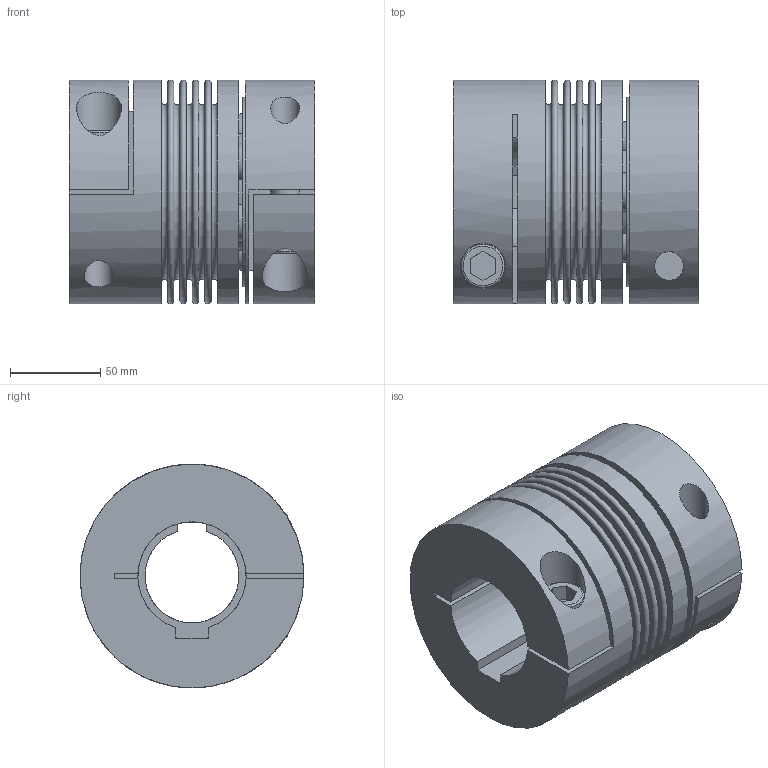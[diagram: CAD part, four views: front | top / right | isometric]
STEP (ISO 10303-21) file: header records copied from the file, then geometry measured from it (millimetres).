
FILE_DESCRIPTION(/* description */ ('STEP AP214'),/* implementation_level */ '2;1');
FILE_NAME(/* name */ 'C:\Diequa Files\DieQua Coupling\BCB\STP\BCB.500.136.#.#.stp',/* time_stamp */ '2018-11-27T09:04:13-06:00',/* author */ ('DiequaCAD'),/* organization */ (''),/* preprocessor_version */ 'ST-DEVELOPER v17.2',/* originating_system */ 'Autodesk Inventor 2019',/* authorisation */ ' ');
FILE_SCHEMA (('AUTOMOTIVE_DESIGN { 1 0 10303 214 3 1 1 }'));
Length unit declared in the file: millimetre
Products named in the file (3): BK5_500_136_60_PFN_52_PFN_95; 2018_11_09__18-14-37-666; 2018_11_09__18-14-37-666_1
Assembly tree (2 placements, depth 2):
  BK5_500_136_60_PFN_52_PFN_95
    2018_11_09__18-14-37-666
    2018_11_09__18-14-37-666_1
Bounding box: 136 x 124 x 124 mm (x, y, z)
Volume: 1023182.9 mm3; surface area: 207397.8 mm2
Topology: 2 solids, 2 shells, 117 faces, 303 edges, 211 vertices
Faces by surface type: plane 62, cone 24, cylinder 20, torus 11
Full cylindrical faces by diameter (mm): 16 x3, 24 x2, 25 x2, 95 x1, 100 x1, 105 x1, 124 x3
Entity records: 3990 total; most frequent: CARTESIAN_POINT 872, DIRECTION 665, ORIENTED_EDGE 606, EDGE_CURVE 303, AXIS2_PLACEMENT_3D 272, VERTEX_POINT 211, CIRCLE 150, EDGE_LOOP 144
